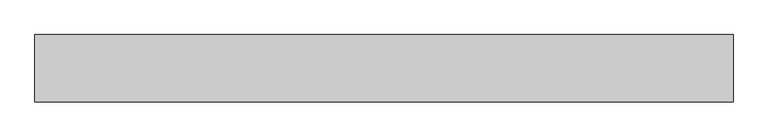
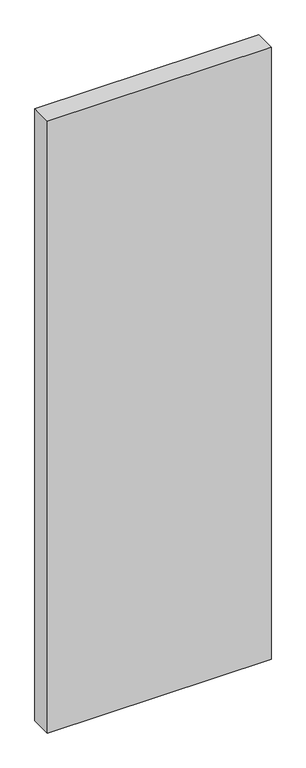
"""IFC4 building model written with IfcOpenShell, lengths in millimetres: plate geometry, Пустая системная панель : Пустая системная панель."""

from ifc_helpers import new_model, si_unit, origin, origin_with_axes, place, context, project, spatial, polyline, outline, extrude, source, transform, mapped, element, save


def plate_e339b6bc(model_context):
    return source(origin(), model_context, "Body", "SweptSolid", [
        extrude(outline(polyline([(518.75, -50.0), (-518.75, -50.0), (-518.75, 50.0), (518.75, 50.0), (518.75, -50.0)])), origin_with_axes(), (0.0, 0.0, 1.0), 3000.0),
    ])


if __name__ == "__main__":
    model = new_model("IFC4")
    model_context = context("Model", 3, world=origin())
    ifc_project = project(units=[si_unit("LENGTHUNIT", "METRE", prefix="MILLI")], contexts=[model_context])
    site = spatial("IfcSite", under=ifc_project)
    building = spatial("IfcBuilding", under=site)
    placement = place(None, origin())
    plate_shape = plate_e339b6bc(model_context)
    element("IfcPlate", 1, ObjectType="Пустая системная панель : Пустая системная панель", at=placement, inside=building, context=model_context, shape_type="MappedRepresentation", body=[
        mapped(plate_shape, transform((0.0, 0.0, 0.0), x_axis=(1.0, 0.0, 0.0), y_axis=(0.0, 1.0, 0.0), z_axis=(0.0, 0.0, 1.0))),
    ])
    save(model, "model.ifc")
